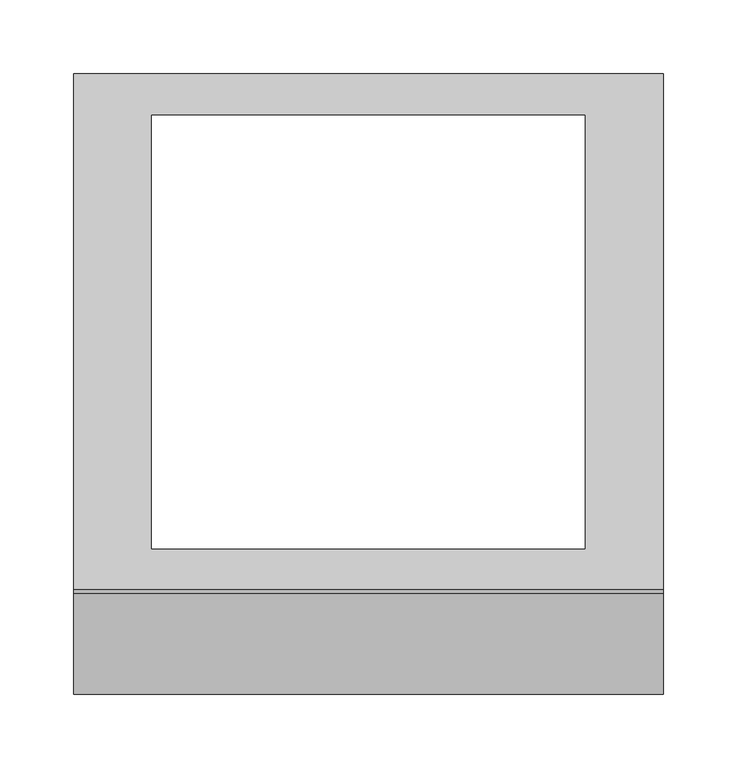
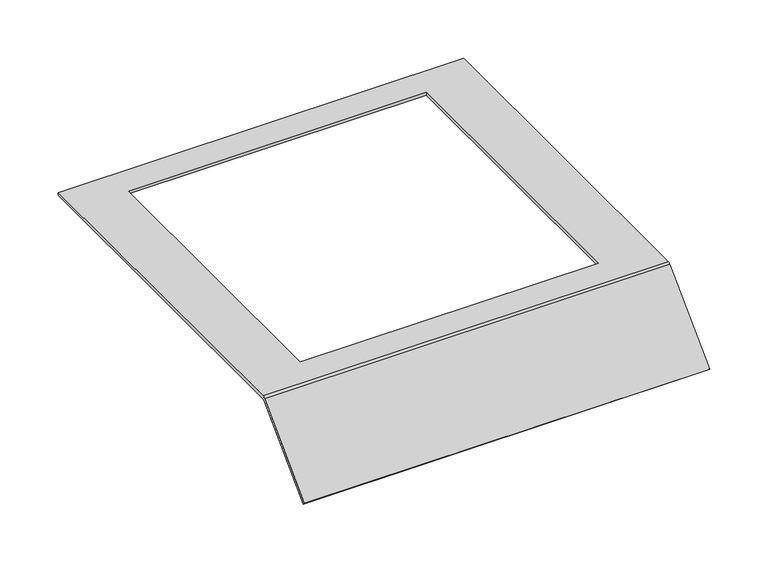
"""IFC4 building model written with IfcOpenShell, lengths in millimetres: proxy geometry, Electrical_Installation_Hager_Covers-With-Installation-Opening-Q08 : Electrical_Installation_Hager_Covers-With-Installation-Opening-Q08."""

from ifc_helpers import new_model, si_unit, frame, origin, place, context, project, spatial, polyline, circle_curve, source, transform, mapped, element, save
from ifc_brep_helpers import plane_surface, cylinder_surface, revolved_surface, advanced_brep


def electrical_fixtures_2923e737(model_context):
    return source(origin(), model_context, "Body", "AdvancedBrep", [
        advanced_brep(
        [(0.0, 175.0, 40.5), (0.0, 175.0, 37.5), (0.0, -174.8229541, 37.5), (0.0, -175.8322972, 37.0819164), (0.0, -243.712807, -30.7985934), (0.0, -245.8341273, -28.6772731), (0.0, -177.8206472, 39.336207), (0.0, -175.0110025, 40.5), (400.0, 175.0, 40.5), (400.0, -175.0110025, 40.5), (400.0, -177.8206472, 39.336207), (400.0, -245.8341273, -28.6772731), (400.0, -243.712807, -30.7985934), (400.0, -175.8322972, 37.0819164), (400.0, -174.8229541, 37.5), (400.0, 175.0, 37.5), (347.0, 147.0, 37.5), (53.0, 147.0, 37.5), (53.0, -147.0, 37.5), (347.0, -147.0, 37.5), (53.0, 147.0, 40.5), (347.0, 147.0, 40.5), (347.0, -147.0, 40.5), (53.0, -147.0, 40.5)],
        [
            (0, 1),
            (1, 2),
            (2, 3, circle_curve(frame((0.0, -174.8229541, 36.0725733), z_axis=(1.0, 0.0, 0.0), x_axis=(0.0, 1.0, 0.0)), 1.4274267)),
            (3, 4),
            (4, 5),
            (5, 6),
            (6, 7, circle_curve(frame((0.0, -175.0110025, 36.5265623), z_axis=(-1.0, 0.0, 0.0), x_axis=(0.0, 1.0, 0.0)), 3.9734377)),
            (7, 0),
            (8, 9),
            (9, 10, circle_curve(frame((400.0, -175.0110025, 36.5265623), z_axis=(1.0, 0.0, 0.0), x_axis=(0.0, 1.0, 0.0)), 3.9734377)),
            (10, 11),
            (11, 12),
            (12, 13),
            (13, 14, circle_curve(frame((400.0, -174.8229541, 36.0725733), z_axis=(-1.0, 0.0, 0.0), x_axis=(0.0, 1.0, 0.0)), 1.4274267)),
            (14, 15),
            (15, 8),
            (0, 8),
            (15, 1),
            (14, 2),
            (16, 17),
            (17, 18),
            (18, 19),
            (19, 16),
            (13, 3),
            (12, 4),
            (11, 5),
            (10, 6),
            (9, 7),
            (20, 21),
            (21, 22),
            (22, 23),
            (23, 20),
            (16, 21),
            (20, 17),
            (23, 18),
            (22, 19),
        ],
        [
            plane_surface(frame((0.0, 0.3269864, 15.0), z_axis=(-1.0, 0.0, 0.0), x_axis=(0.0, 0.0, 1.0))),
            plane_surface(frame((400.0, 0.3269864, 15.0), z_axis=(1.0, 0.0, 0.0), x_axis=(0.0, 0.0, 1.0))),
            plane_surface(frame((0.0, 175.0, 40.5), z_axis=(0.0, 1.0, 0.0), x_axis=(1.0, 0.0, 0.0))),
            plane_surface(frame((0.0, 175.0, 37.5), z_axis=(0.0, 0.0, -1.0), x_axis=(1.0, 0.0, 0.0))),
            revolved_surface(polyline([(400.0, -173.3955274, 36.0725733), (0.0, -173.3955274, 36.0725733)]), (0.0, -174.8229541, 36.0725733), (1.0, 0.0, 0.0)),
            plane_surface(frame((0.0, -175.8322972, 37.0819164), z_axis=(0.0, 0.7071067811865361, -0.707106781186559), x_axis=(1.0, 0.0, 0.0))),
            plane_surface(frame((0.0, -243.712807, -30.7985934), z_axis=(0.0, -0.7071067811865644, -0.7071067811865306), x_axis=(1.0, 0.0, 0.0))),
            plane_surface(frame((0.0, -245.8341273, -28.6772731), z_axis=(0.0, -0.7071067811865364, 0.7071067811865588), x_axis=(1.0, 0.0, 0.0))),
            cylinder_surface(frame((0.0, -175.0110025, 36.5265623), z_axis=(-1.0, 0.0, 0.0), x_axis=(0.0, 1.0, 0.0)), 3.9734377),
            plane_surface(frame((0.0, -175.0110025, 40.5), z_axis=(0.0, 0.0, 1.0), x_axis=(1.0, 0.0, 0.0))),
            plane_surface(frame((347.0, 147.0, 250.0), z_axis=(0.0, -1.0, 0.0), x_axis=(0.0, 0.0, -1.0))),
            plane_surface(frame((53.0, 147.0, 250.0), z_axis=(1.0, 0.0, 0.0), x_axis=(0.0, 0.0, -1.0))),
            plane_surface(frame((53.0, -147.0, 250.0), z_axis=(0.0, 1.0, 0.0), x_axis=(0.0, 0.0, -1.0))),
            plane_surface(frame((347.0, -147.0, 250.0), z_axis=(-1.0, 0.0, 0.0), x_axis=(0.0, 0.0, -1.0))),
        ],
        [
            (0, [[1, 2, 3, 4, 5, 6, 7, 8]]),
            (1, [[9, 10, 11, 12, 13, 14, 15, 16]]),
            (2, [[-1, 17, -16, 18]]),
            (3, [[-2, -18, -15, 19], [20, 21, 22, 23]]),
            (4, [[-3, -19, -14, 24]]),
            (5, [[-4, -24, -13, 25]]),
            (6, [[-5, -25, -12, 26]]),
            (7, [[-6, -26, -11, 27]]),
            (8, [[-7, -27, -10, 28]]),
            (9, [[-8, -28, -9, -17], [29, 30, 31, 32]]),
            (10, [[33, -29, 34, -20]]),
            (11, [[-34, -32, 35, -21]]),
            (12, [[-35, -31, 36, -22]]),
            (13, [[-33, -23, -36, -30]]),
        ],
    ),
    ])


if __name__ == "__main__":
    model = new_model("IFC4")
    model_context = context("Model", 3, world=origin())
    ifc_project = project(units=[si_unit("LENGTHUNIT", "METRE", prefix="MILLI")], contexts=[model_context])
    site = spatial("IfcSite", under=ifc_project)
    building = spatial("IfcBuilding", under=site)
    placement = place(None, origin())
    electrical_fixtures_shape = electrical_fixtures_2923e737(model_context)
    element("IfcBuildingElementProxy", 1, Name="Electrical_Installation_Hager_Covers-With-Installation-Opening-Q08 : Electrical_Installation_Hager_Covers-With-Installation-Opening-Q08", ObjectType="Electrical_Installation_Hager_Covers-With-Installation-Opening-Q08 : Electrical_Installation_Hager_Covers-With-Installation-Opening-Q08", at=placement, inside=building, context=model_context, shape_type="MappedRepresentation", body=[
        mapped(electrical_fixtures_shape, transform((0.0, 0.0, 0.0), x_axis=(1.0, 0.0, 0.0), y_axis=(0.0, 1.0, 0.0), z_axis=(0.0, 0.0, 1.0))),
    ])
    save(model, "model.ifc")
